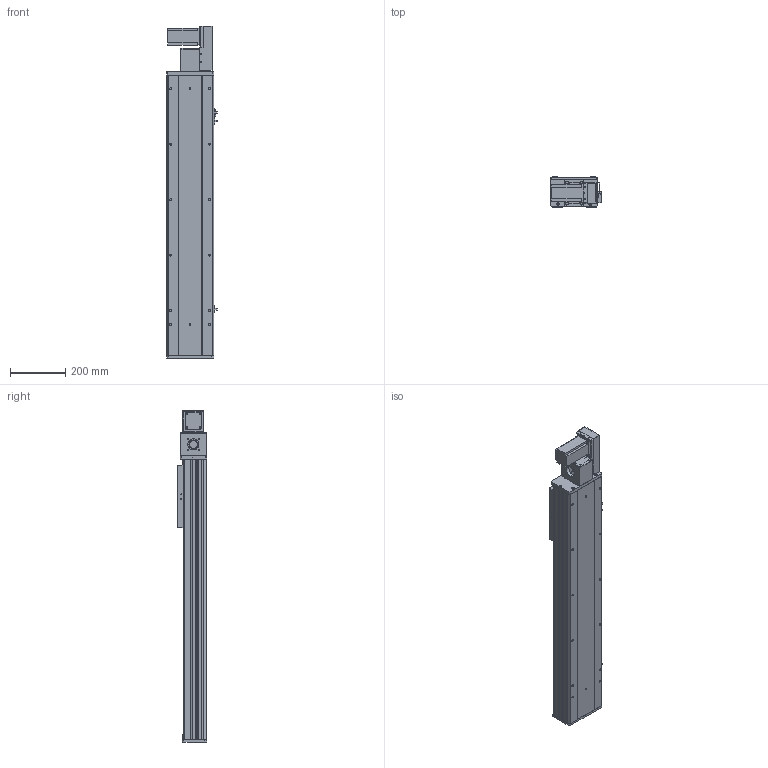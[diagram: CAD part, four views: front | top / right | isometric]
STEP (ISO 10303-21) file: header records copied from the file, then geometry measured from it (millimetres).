
FILE_DESCRIPTION (( 'STEP AP203' ), '1' );
FILE_NAME ('Y170CB-D105-S700-BR-P400W.STEP', '2020-02-19T09:00:55', ( '微软用户' ), ( '微软中国' ), 'SwSTEP 2.0', 'SolidWorks 2017', '' );
FILE_SCHEMA (( 'CONFIG_CONTROL_DESIGN' ));
Length unit declared in the file: millimetre
Products named in the file (17): 70B喘謫眊----; B-源倛裔啣; 17B-耜蚾蟀諉啣----; 0B-萇儂楊擘啣; san松下电机400不带刹车----; Y70俋欶BR----; 70CB-掛极-; --70CB --喘謫眊楊擘啣-; 70CB-耜裔啣-; 70C--詩湍揤踡え-; 70CB--耜裔; 70C-雄赽釱-奻-; 0C--雄赽釱俋欶-170; 70CB-詩湍--; Y100-135俋离換覜ん--; Y170CB-陔俋离換覜結え---; Y170CB-D105-S700-BR-P400W
Assembly tree (20 placements, depth 2):
  Y170CB-D105-S700-BR-P400W
    70B喘謫眊----
    B-源倛裔啣
    17B-耜蚾蟀諉啣----
    0B-萇儂楊擘啣
    san松下电机400不带刹车----
    Y70俋欶BR----
    70CB-掛极-
    --70CB --喘謫眊楊擘啣-
    70CB-耜裔啣-  x2
    70C--詩湍揤踡え-  x2
    70CB--耜裔
    70C-雄赽釱-奻-
    0C--雄赽釱俋欶-170
    70CB-詩湍--
    Y100-135俋离換覜ん--  x3
    Y170CB-陔俋离換覜結え---
Bounding box: 183.5 x 107 x 1197 mm (x, y, z)
Volume: 5350540.5 mm3; surface area: 1903838.2 mm2
Topology: 20 solids, 20 shells, 985 faces, 2633 edges, 1746 vertices
Faces by surface type: cylinder 499, plane 462, cone 24
Entity records: 31167 total; most frequent: CARTESIAN_POINT 5721, DIRECTION 5068, ORIENTED_EDGE 4748, EDGE_CURVE 2374, AXIS2_PLACEMENT_3D 1845, VERTEX_POINT 1576, VECTOR 1378, LINE 1378
